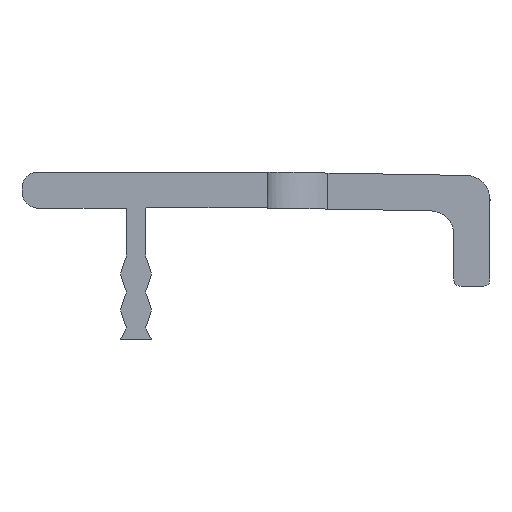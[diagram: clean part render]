
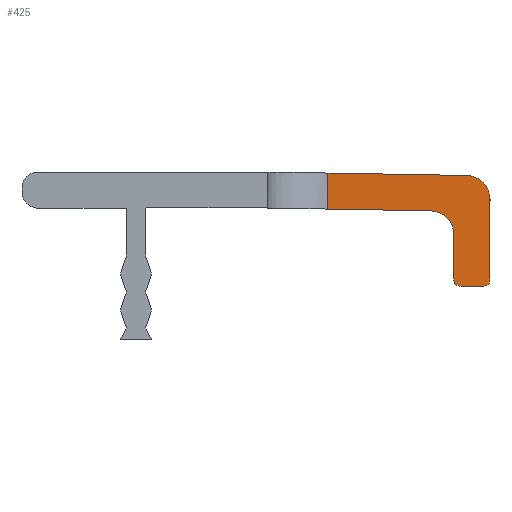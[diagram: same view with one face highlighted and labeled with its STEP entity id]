
A CAD part, left-side view. The second image highlights one B-rep face of the part: STEP entity #425.
In plain terms, the highlighted planar face has unit normal (-1, 0, 0).
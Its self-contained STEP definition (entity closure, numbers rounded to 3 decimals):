
#267 = VERTEX_POINT( '', #739 );
#293 = EDGE_CURVE( '', #459, #267, #769, .T. );
#321 = VERTEX_POINT( '', #797 );
#341 = VERTEX_POINT( '', #818 );
#345 = EDGE_CURVE( '', #639, #637, #822, .T. );
#375 = EDGE_CURVE( '', #399, #639, #856, .T. );
#399 = VERTEX_POINT( '', #881 );
#413 = EDGE_CURVE( '', #643, #665, #896, .T. );
#425 = ADVANCED_FACE( '', ( #908 ), #909, .F. );
#459 = VERTEX_POINT( '', #946 );
#471 = EDGE_CURVE( '', #341, #267, #961, .T. );
#485 = EDGE_CURVE( '', #459, #321, #975, .T. );
#557 = VERTEX_POINT( '', #1054 );
#575 = EDGE_CURVE( '', #637, #341, #1074, .T. );
#583 = EDGE_CURVE( '', #321, #557, #1083, .T. );
#637 = VERTEX_POINT( '', #1143 );
#639 = VERTEX_POINT( '', #1145 );
#643 = VERTEX_POINT( '', #1149 );
#665 = VERTEX_POINT( '', #1173 );
#669 = EDGE_CURVE( '', #665, #399, #1178, .T. );
#691 = EDGE_CURVE( '', #557, #643, #1200, .T. );
#739 = CARTESIAN_POINT( '', ( -397.5, -16., -0.088 ) );
#769 = LINE( '', #1291, #1292 );
#797 = CARTESIAN_POINT( '', ( -397.5, -27.535, 2.711 ) );
#818 = CARTESIAN_POINT( '', ( -397.5, -24.535, -0.237 ) );
#822 = LINE( '', #1369, #1370 );
#856 = CIRCLE( '', #1420, 0.5 );
#881 = CARTESIAN_POINT( '', ( -397.5, -27., -6.5 ) );
#896 = CIRCLE( '', #1483, 0.5 );
#908 = FACE_OUTER_BOUND( '', #1499, .T. );
#909 = PLANE( '', #1500 );
#946 = CARTESIAN_POINT( '', ( -397.5, -16., 2.913 ) );
#961 = LINE( '', #1564, #1565 );
#975 = LINE( '', #1588, #1589 );
#1054 = CARTESIAN_POINT( '', ( -397.5, -29.5, 0.712 ) );
#1074 = CIRCLE( '', #1715, 2. );
#1083 = CIRCLE( '', #1727, 2. );
#1143 = CARTESIAN_POINT( '', ( -397.5, -26.5, -2.236 ) );
#1145 = CARTESIAN_POINT( '', ( -397.5, -26.5, -6. ) );
#1149 = CARTESIAN_POINT( '', ( -397.5, -29.5, -6. ) );
#1173 = CARTESIAN_POINT( '', ( -397.5, -29., -6.5 ) );
#1178 = LINE( '', #1854, #1855 );
#1200 = LINE( '', #1894, #1895 );
#1291 = CARTESIAN_POINT( '', ( -397.5, -16., 10. ) );
#1292 = VECTOR( '', #1979, 1. );
#1369 = CARTESIAN_POINT( '', ( -397.5, -26.5, 2. ) );
#1370 = VECTOR( '', #2002, 1. );
#1420 = AXIS2_PLACEMENT_3D( '', #2051, #2052, #2053 );
#1483 = AXIS2_PLACEMENT_3D( '', #2081, #2082, #2083 );
#1499 = EDGE_LOOP( '', ( #2087, #2088, #2089, #2090, #2091, #2092, #2093, #2094, #2095, #2096 ) );
#1500 = AXIS2_PLACEMENT_3D( '', #2097, #2098, #2099 );
#1564 = CARTESIAN_POINT( '', ( -397.5, -26.927, -0.278 ) );
#1565 = VECTOR( '', #2202, 1. );
#1588 = CARTESIAN_POINT( '', ( -397.5, -20.186, 2.84 ) );
#1589 = VECTOR( '', #2207, 1. );
#1715 = AXIS2_PLACEMENT_3D( '', #2311, #2312, #2313 );
#1727 = AXIS2_PLACEMENT_3D( '', #2323, #2324, #2325 );
#1854 = CARTESIAN_POINT( '', ( -397.5, -29.25, -6.5 ) );
#1855 = VECTOR( '', #2428, 1. );
#1894 = CARTESIAN_POINT( '', ( -397.5, -29.5, 5.356 ) );
#1895 = VECTOR( '', #2442, 1. );
#1979 = DIRECTION( '', ( 0., 0., -1. ) );
#2002 = DIRECTION( '', ( 0., 0., 1. ) );
#2051 = CARTESIAN_POINT( '', ( -397.5, -27., -6. ) );
#2052 = DIRECTION( '', ( 1., 0., 0. ) );
#2053 = DIRECTION( '', ( 0., 0., -1. ) );
#2081 = CARTESIAN_POINT( '', ( -397.5, -29., -6. ) );
#2082 = DIRECTION( '', ( 1., 0., 0. ) );
#2083 = DIRECTION( '', ( 0., -1., 0. ) );
#2087 = ORIENTED_EDGE( '', *, *, #485, .F. );
#2088 = ORIENTED_EDGE( '', *, *, #293, .T. );
#2089 = ORIENTED_EDGE( '', *, *, #471, .F. );
#2090 = ORIENTED_EDGE( '', *, *, #575, .F. );
#2091 = ORIENTED_EDGE( '', *, *, #345, .F. );
#2092 = ORIENTED_EDGE( '', *, *, #375, .F. );
#2093 = ORIENTED_EDGE( '', *, *, #669, .F. );
#2094 = ORIENTED_EDGE( '', *, *, #413, .F. );
#2095 = ORIENTED_EDGE( '', *, *, #691, .F. );
#2096 = ORIENTED_EDGE( '', *, *, #583, .F. );
#2097 = CARTESIAN_POINT( '', ( -397.5, -29.5, 10. ) );
#2098 = DIRECTION( '', ( 1., 0., 0. ) );
#2099 = DIRECTION( '', ( 0., -1., 0. ) );
#2202 = DIRECTION( '', ( 0., 1., 0.017 ) );
#2207 = DIRECTION( '', ( 0., -1., -0.017 ) );
#2311 = CARTESIAN_POINT( '', ( -397.5, -24.5, -2.236 ) );
#2312 = DIRECTION( '', ( -1., 0., 0. ) );
#2313 = DIRECTION( '', ( 0., -1., 0. ) );
#2323 = CARTESIAN_POINT( '', ( -397.5, -27.5, 0.712 ) );
#2324 = DIRECTION( '', ( 1., 0., 0. ) );
#2325 = DIRECTION( '', ( 0., -0.017, 1. ) );
#2428 = DIRECTION( '', ( 0., 1., 0. ) );
#2442 = DIRECTION( '', ( 0., 0., -1. ) );
